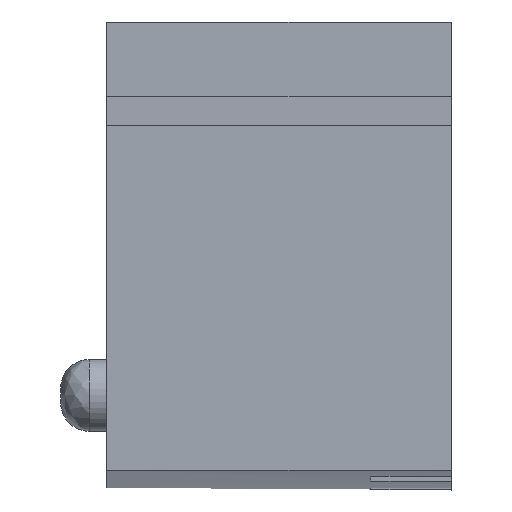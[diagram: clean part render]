
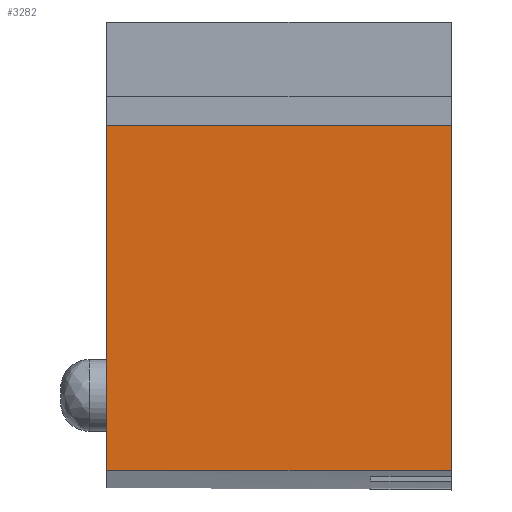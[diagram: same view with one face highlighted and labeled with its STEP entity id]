
A CAD part, left-side view. The second image highlights one B-rep face of the part: STEP entity #3282.
In plain terms, the highlighted planar face has unit normal (-1, 0, 0).
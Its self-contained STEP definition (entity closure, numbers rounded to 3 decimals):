
#198=DIRECTION('',(0.,0.,-1.));
#199=VECTOR('',#198,6.);
#200=CARTESIAN_POINT('',(-6.,6.,-45.653));
#201=LINE('',#200,#199);
#512=DIRECTION('',(0.,-1.,0.));
#513=VECTOR('',#512,6.);
#514=CARTESIAN_POINT('',(-6.,6.,-51.653));
#515=LINE('',#514,#513);
#1179=DIRECTION('',(0.,0.,-1.));
#1180=VECTOR('',#1179,6.);
#1181=CARTESIAN_POINT('',(-6.,0.,-45.653));
#1182=LINE('',#1181,#1180);
#1183=DIRECTION('',(0.,-1.,0.));
#1184=VECTOR('',#1183,6.);
#1185=CARTESIAN_POINT('',(-6.,6.,-45.653));
#1186=LINE('',#1185,#1184);
#1223=CARTESIAN_POINT('',(-6.,0.,-45.653));
#1224=CARTESIAN_POINT('',(-6.,0.,-51.653));
#1225=VERTEX_POINT('',#1223);
#1226=VERTEX_POINT('',#1224);
#1227=CARTESIAN_POINT('',(-6.,6.,-45.653));
#1228=VERTEX_POINT('',#1227);
#1263=CARTESIAN_POINT('',(-6.,6.,-51.653));
#1264=VERTEX_POINT('',#1263);
#3271=CARTESIAN_POINT('',(-6.,0.,-51.653));
#3272=DIRECTION('',(-1.,0.,0.));
#3273=DIRECTION('',(0.,0.,1.));
#3274=AXIS2_PLACEMENT_3D('',#3271,#3272,#3273);
#3275=PLANE('',#3274);
#3276=ORIENTED_EDGE('',*,*,#1618,.T.);
#3277=ORIENTED_EDGE('',*,*,#2351,.F.);
#3278=ORIENTED_EDGE('',*,*,#1887,.F.);
#3279=ORIENTED_EDGE('',*,*,#1750,.T.);
#3280=EDGE_LOOP('',(#3276,#3277,#3278,#3279));
#3281=FACE_OUTER_BOUND('',#3280,.F.);
#1618=EDGE_CURVE('',#1225,#1226,#1182,.T.);
#1750=EDGE_CURVE('',#1228,#1225,#1186,.T.);
#1887=EDGE_CURVE('',#1228,#1264,#201,.T.);
#2351=EDGE_CURVE('',#1264,#1226,#515,.T.);
#3282=ADVANCED_FACE('',(#3281),#3275,.T.);
